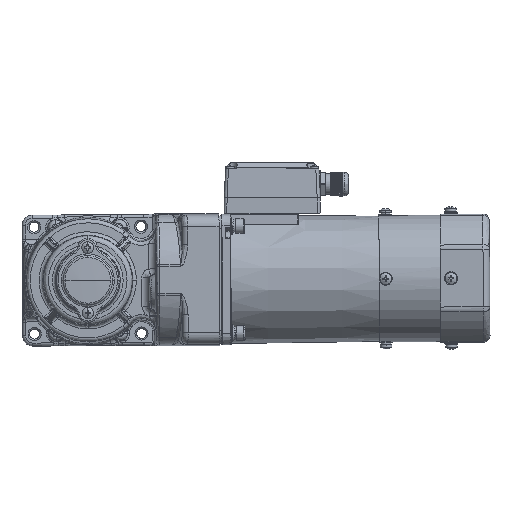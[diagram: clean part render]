
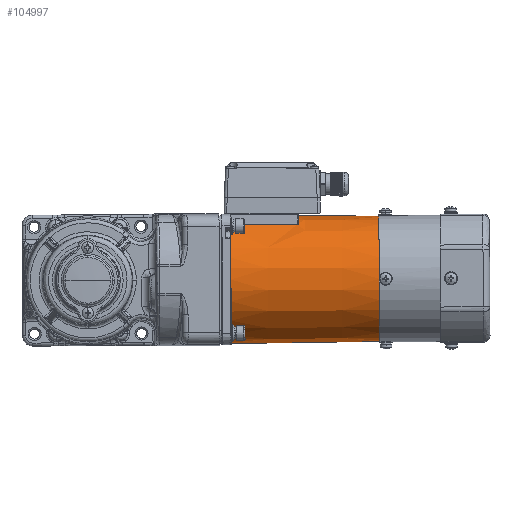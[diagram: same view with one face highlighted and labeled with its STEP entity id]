
A CAD part, left-side view. The second image highlights one B-rep face of the part: STEP entity #104997.
In plain terms, the highlighted conical face has half-angle 0.5 degrees and reference radius 44 mm.
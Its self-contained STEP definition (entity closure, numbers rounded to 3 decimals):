
#5289 = DIRECTION ( 'NONE',  ( -1., 0., 0. ) ) ;
#5345 = CARTESIAN_POINT ( 'NONE',  ( 20.751, 15.967, 200.666 ) ) ;
#6242 = DIRECTION ( 'NONE',  ( -1., 0., 0. ) ) ;
#8553 = DIRECTION ( 'NONE',  ( 0., 0., -1. ) ) ;
#9267 = EDGE_CURVE ( 'NONE', #82887, #42486, #16869, .T. ) ;
#11370 = VECTOR ( 'NONE', #12561, 1000. ) ;
#12310 = CARTESIAN_POINT ( 'NONE',  ( 20.764, 15.944, 200.687 ) ) ;
#12327 = VERTEX_POINT ( 'NONE', #76254 ) ;
#12561 = DIRECTION ( 'NONE',  ( 0.009, 0., -1. ) ) ;
#13186 = CARTESIAN_POINT ( 'NONE',  ( 26.829, -5.538, 154.25 ) ) ;
#13509 = CARTESIAN_POINT ( 'NONE',  ( -17.171, -5.538, 256.25 ) ) ;
#13566 = CARTESIAN_POINT ( 'NONE',  ( 20.746, 15.976, 200.657 ) ) ;
#15667 = AXIS2_PLACEMENT_3D ( 'NONE', #94984, #8553, #47062 ) ;
#16869 = B_SPLINE_CURVE_WITH_KNOTS ( 'NONE', 3,
 ( #80669, #81904, #80046, #62357 ),
 .UNSPECIFIED., .F., .F.,
 ( 4, 4 ),
 ( 0., 0.046 ),
 .UNSPECIFIED. ) ;
#17733 = CIRCLE ( 'NONE', #82095, 43.11 ) ;
#18556 = ORIENTED_EDGE ( 'NONE', *, *, #18605, .T. ) ;
#18605 = EDGE_CURVE ( 'NONE', #50325, #74575, #46856, .T. ) ;
#18984 = CARTESIAN_POINT ( 'NONE',  ( 20.701, 16.059, 200.453 ) ) ;
#23658 = CARTESIAN_POINT ( 'NONE',  ( 20.718, 16.027, 200.587 ) ) ;
#26445 = DIRECTION ( 'NONE',  ( 0., 0., 1. ) ) ;
#26874 = CARTESIAN_POINT ( 'NONE',  ( -60.28, -5.538, 256.25 ) ) ;
#29650 = EDGE_CURVE ( 'NONE', #12327, #50325, #42226, .T. ) ;
#30567 = CARTESIAN_POINT ( 'NONE',  ( 20.935, 16.462, 154.25 ) ) ;
#31252 = CARTESIAN_POINT ( 'NONE',  ( 20.701, 16.059, 200.453 ) ) ;
#31876 = CARTESIAN_POINT ( 'NONE',  ( 20.84, 15.808, 200.75 ) ) ;
#32499 = CARTESIAN_POINT ( 'NONE',  ( 20.868, 15.759, 200.75 ) ) ;
#32709 = ORIENTED_EDGE ( 'NONE', *, *, #101650, .F. ) ;
#35202 = CARTESIAN_POINT ( 'NONE',  ( 20.868, 15.759, 200.75 ) ) ;
#38049 = CIRCLE ( 'NONE', #122606, 44. ) ;
#42226 = LINE ( 'NONE', #13186, #11370 ) ;
#42486 = VERTEX_POINT ( 'NONE', #30567 ) ;
#46445 = FACE_OUTER_BOUND ( 'NONE', #51308, .T. ) ;
#46621 = CARTESIAN_POINT ( 'NONE',  ( -17.171, -5.538, 154.25 ) ) ;
#46856 = CIRCLE ( 'NONE', #75018, 43.594 ) ;
#47062 = DIRECTION ( 'NONE',  ( -1., 0., 0. ) ) ;
#47925 = CONICAL_SURFACE ( 'NONE', #15667, 44., 0.009 ) ;
#50325 = VERTEX_POINT ( 'NONE', #85011 ) ;
#50800 = CARTESIAN_POINT ( 'NONE',  ( 20.779, 15.919, 200.706 ) ) ;
#51308 = EDGE_LOOP ( 'NONE', ( #98396, #118995, #18556, #32709, #105700, #92058, #114490 ) ) ;
#51392 = VERTEX_POINT ( 'NONE', #26874 ) ;
#58577 = DIRECTION ( 'NONE',  ( 0., 0., 1. ) ) ;
#60248 = CARTESIAN_POINT ( 'NONE',  ( 20.705, 16.051, 200.53 ) ) ;
#62357 = CARTESIAN_POINT ( 'NONE',  ( 20.935, 16.462, 154.25 ) ) ;
#64495 = EDGE_CURVE ( 'NONE', #42486, #114047, #38049, .T. ) ;
#69719 = CARTESIAN_POINT ( 'NONE',  ( 20.817, 15.851, 200.738 ) ) ;
#74575 = VERTEX_POINT ( 'NONE', #35202 ) ;
#75018 = AXIS2_PLACEMENT_3D ( 'NONE', #124882, #58577, #118977 ) ;
#76254 = CARTESIAN_POINT ( 'NONE',  ( 25.939, -5.538, 256.25 ) ) ;
#78588 = EDGE_CURVE ( 'NONE', #51392, #114047, #88712, .T. ) ;
#80046 = CARTESIAN_POINT ( 'NONE',  ( 20.857, 16.328, 169.651 ) ) ;
#80669 = CARTESIAN_POINT ( 'NONE',  ( 20.701, 16.059, 200.453 ) ) ;
#81904 = CARTESIAN_POINT ( 'NONE',  ( 20.779, 16.193, 185.052 ) ) ;
#82095 = AXIS2_PLACEMENT_3D ( 'NONE', #13509, #109389, #5289 ) ;
#82887 = VERTEX_POINT ( 'NONE', #18984 ) ;
#85011 = CARTESIAN_POINT ( 'NONE',  ( 26.424, -5.538, 200.75 ) ) ;
#86048 = VECTOR ( 'NONE', #118400, 1000. ) ;
#88712 = LINE ( 'NONE', #117149, #86048 ) ;
#89896 = CARTESIAN_POINT ( 'NONE',  ( 20.734, 15.999, 200.631 ) ) ;
#90526 = CARTESIAN_POINT ( 'NONE',  ( 20.739, 15.989, 200.643 ) ) ;
#92058 = ORIENTED_EDGE ( 'NONE', *, *, #64495, .T. ) ;
#94984 = CARTESIAN_POINT ( 'NONE',  ( -17.171, -5.538, 154.25 ) ) ;
#97132 = CARTESIAN_POINT ( 'NONE',  ( -61.171, -5.538, 154.25 ) ) ;
#98396 = ORIENTED_EDGE ( 'NONE', *, *, #112074, .T. ) ;
#98726 = CARTESIAN_POINT ( 'NONE',  ( 20.753, 15.964, 200.669 ) ) ;
#101650 = EDGE_CURVE ( 'NONE', #82887, #74575, #112811, .T. ) ;
#104997 = ADVANCED_FACE ( 'NONE', ( #46445 ), #47925, .T. ) ;
#105700 = ORIENTED_EDGE ( 'NONE', *, *, #9267, .T. ) ;
#109389 = DIRECTION ( 'NONE',  ( 0., 0., -1. ) ) ;
#110067 = CARTESIAN_POINT ( 'NONE',  ( 20.701, 16.058, 200.491 ) ) ;
#112074 = EDGE_CURVE ( 'NONE', #51392, #12327, #17733, .T. ) ;
#112811 = B_SPLINE_CURVE_WITH_KNOTS ( 'NONE', 3,
 ( #31252, #110067, #60248, #23658, #120181, #89896, #90526, #13566, #118938, #5345, #98726, #12310, #50800, #69719, #31876, #32499 ),
 .UNSPECIFIED., .F., .F.,
 ( 4, 2, 2, 1, 1, 2, 2, 2, 4 ),
 ( 0., 0.25, 0.375, 0.438, 0.469, 0.484, 0.5, 0.75, 1. ),
 .UNSPECIFIED. ) ;
#114047 = VERTEX_POINT ( 'NONE', #97132 ) ;
#114490 = ORIENTED_EDGE ( 'NONE', *, *, #78588, .F. ) ;
#117149 = CARTESIAN_POINT ( 'NONE',  ( -61.171, -5.538, 154.25 ) ) ;
#118400 = DIRECTION ( 'NONE',  ( -0.009, 0., -1. ) ) ;
#118938 = CARTESIAN_POINT ( 'NONE',  ( 20.749, 15.97, 200.663 ) ) ;
#118977 = DIRECTION ( 'NONE',  ( -1., 0., 0. ) ) ;
#118995 = ORIENTED_EDGE ( 'NONE', *, *, #29650, .T. ) ;
#120181 = CARTESIAN_POINT ( 'NONE',  ( 20.724, 16.017, 200.605 ) ) ;
#122606 = AXIS2_PLACEMENT_3D ( 'NONE', #46621, #26445, #6242 ) ;
#124882 = CARTESIAN_POINT ( 'NONE',  ( -17.171, -5.538, 200.75 ) ) ;
